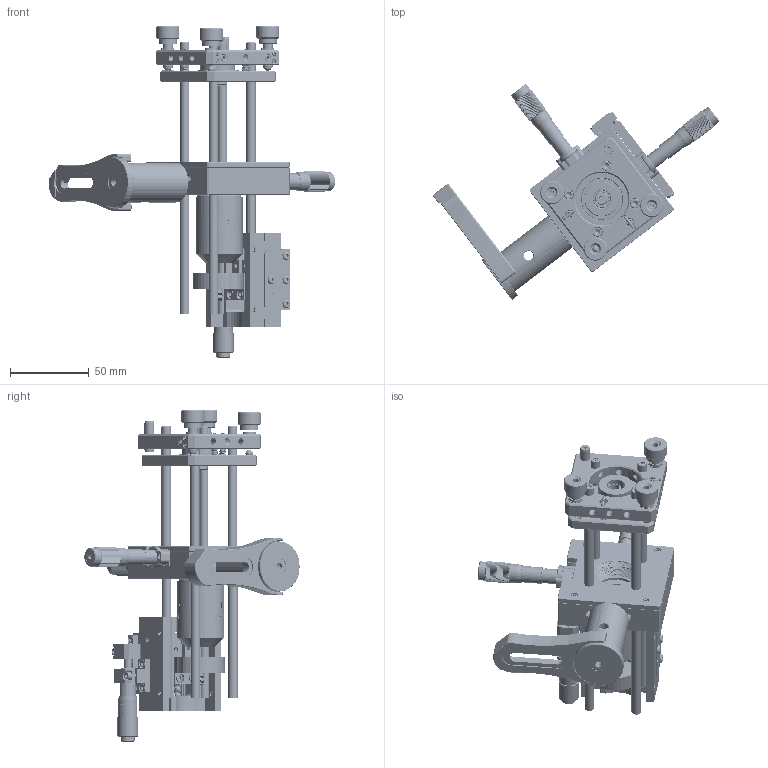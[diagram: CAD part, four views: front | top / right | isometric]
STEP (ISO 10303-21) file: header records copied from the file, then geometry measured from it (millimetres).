
FILE_DESCRIPTION((''),'2;1');
FILE_NAME('OFF_0001_ASM','2026-07-07T17:34:54',('Administrator'),(''),'CREO PARAMETRIC BY PTC INC, 2025102','CREO PARAMETRIC BY PTC INC, 2025102','');
FILE_SCHEMA(('CONFIG_CONTROL_DESIGN'));
Length unit declared in the file: millimetre
Products named in the file (107): CXY1E_M_A1_1_1; CXY1E_M_A2_1_1; CXY1E_M_A3_1_1; CXY1E_M_A4_1_1; AXLE_1_6X6_1_1; SPRING_3X13_1_1; AXLE_1_6X8_1_1; SPACER_6X1_1_1; BALL_3_1_1; M2X6_HM_1_1; M2X5_HS_1_1; SPRING_3X18_1_1; AXLE_3X11_1_1; M2X4_HS_1_1; CXY1E_M_A7_1_1; SM13_A1_1_1; SM13_A2_1_1; SM13_A6_1_1; SM13_A3_1_1; SM13_A4_1_1; SM25_A5_1_1; SM13_ASM_1_ASM_1_ASM; CXY1E_M_ASM_2_ASM_2_1_ASM; CXY1E_M_ASM_ASM_3_ASM; PCM-S_76_1_1; CFP2-S_1_1; MOPL10X_1; SM13_1_5_1; CSD-XCT1_A1_7_1; CSD-XCT1_A2_8_1; SM13_2_5_1; M3X6_HM_5_1; CSD-XCT1_A3_7_1; CSD-XCT1_A4_7_1; M3X5_PM_5_1; AXLE_1_5X7_5_5_1; CSD-XCT1_A5_7_1; CSD-XCT1_A6_18_1; SM13_3_6_1; CSD-XCT1_A4_B_9_1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
Assembly tree (236 placements, depth 5):
  OFF_0001_ASM
    CXY1E_M_ASM_ASM_3_ASM
      CXY1E_M_ASM_2_ASM_2_1_ASM
        CXY1E_M_A1_1_1
        CXY1E_M_A2_1_1
        CXY1E_M_A3_1_1
        CXY1E_M_A4_1_1
        AXLE_1_6X6_1_1  x6
        SPRING_3X13_1_1  x6
        AXLE_1_6X8_1_1  x20
        SPACER_6X1_1_1  x2
        BALL_3_1_1  x6
        M2X6_HM_1_1  x10
        M2X5_HS_1_1  x8
        SPRING_3X18_1_1  x4
        AXLE_3X11_1_1  x2
        M2X4_HS_1_1  x6
        CXY1E_M_A7_1_1  x2
        SM13_ASM_1_ASM_1_ASM  x2
          SM13_A1_1_1
          SM13_A2_1_1
          SM13_A6_1_1
          SM13_A3_1_1
          SM13_A4_1_1
          SM25_A5_1_1
    PCM-S_76_1_1  x8
    CFP2-S_1_1
    MOPL10X_1
    SN0004_ASM_ASM_1_ASM
      CSD-XCT1_ASM_36_ASM_1_ASM
        SM13_1_5_1
        CSD-XCT1_A1_7_1
        CSD-XCT1_A2_8_1
        SM13_2_5_1
        M3X6_HM_5_1  x18
        CSD-XCT1_A3_7_1
        CSD-XCT1_A4_7_1
        M3X5_PM_5_1  x4
        AXLE_1_5X7_5_5_1  x4
        CSD-XCT1_A5_7_1
        CSD-XCT1_A6_18_1
        SM13_3_6_1
        CSD-XCT1_A4_B_9_1
        CSD-XCT1_A8_16_1
        AXLE_1_5X5_5_1  x2
        CSD-XCT1_A9_8_1
        AXLE_4X6_5_1  x2
        CSK1_5_1
        CSD-XCT1_A10_7_1
        M3X5_HS_5_1  x7
        SPRING_STRETCH_4X21_3_1  x2
        AXLE_3X49_5_4_1
        AXLE_2X49_5_3_1  x4
        AXLE_2X20_5_4_1  x4
        BALL_S_20X2_7X0_25_6_1  x2
        BALL_1_8_4_1  x16
        M2X8_HS_1_1  x4
    SM1-SMA_ASM_1_ASM
      SM1-SMA_ASM_11_ASM_1_ASM
        SMA1-SMA_11_1
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Bounding box: 181.98 x 136.65 x 210.8 mm (x, y, z)
Volume: 233853.8 mm3; surface area: 175195 mm2
Topology: 226 solids, 237 shells, 11525 faces, 32048 edges, 20753 vertices
Faces by surface type: cylinder 4251, plane 3176, bspline 2509, cone 1181, extrusion 206, sphere 108, torus 94
Entity records: 602092 total; most frequent: CARTESIAN_POINT 403015, ORIENTED_EDGE 46392, DIRECTION 31908, EDGE_CURVE 23696, VERTEX_POINT 15665, AXIS2_PLACEMENT_3D 10955, VECTOR 9998, LINE 9793
